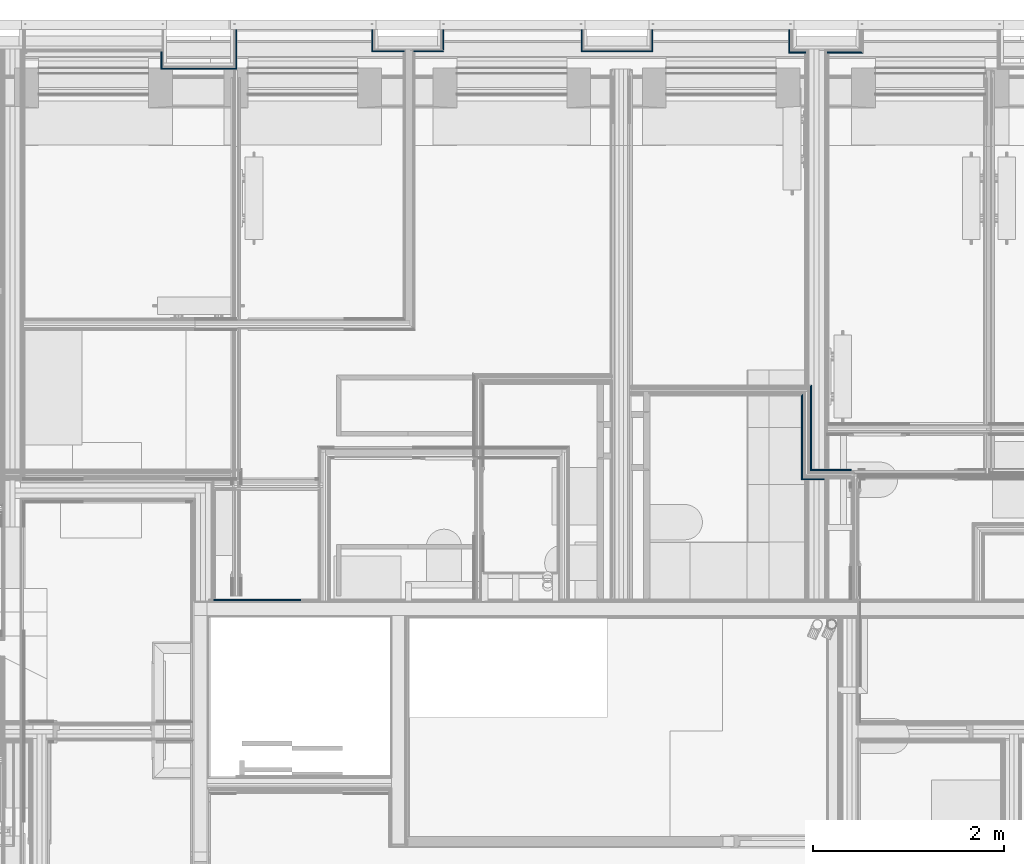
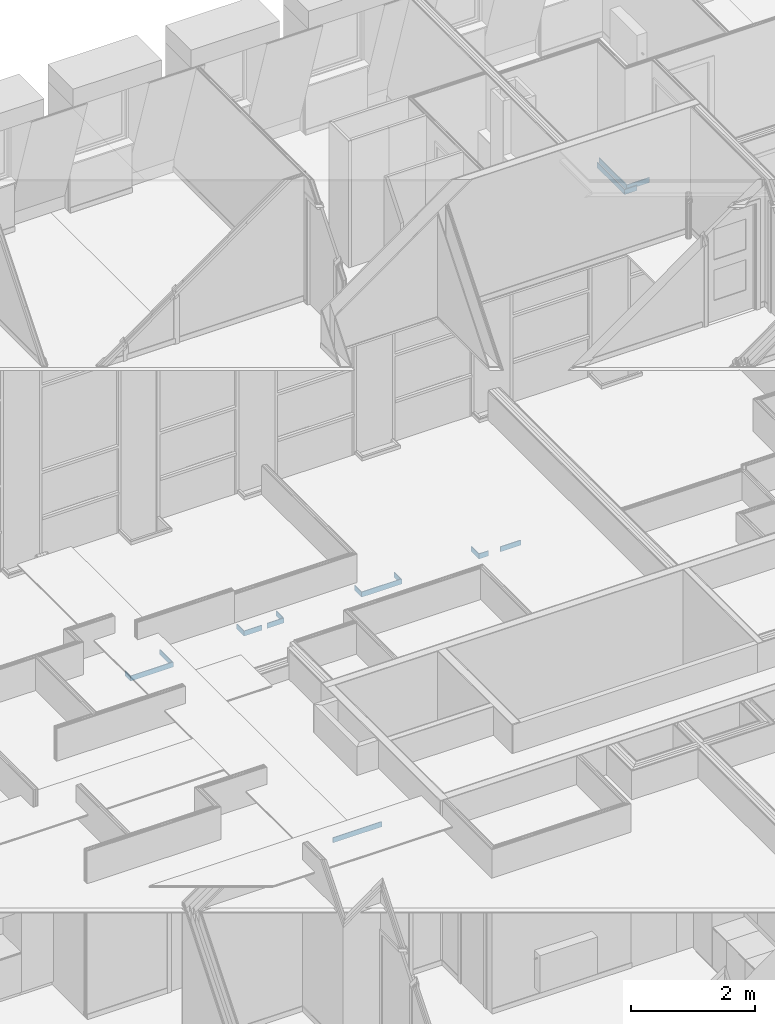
# One storey, part 60 of 169: 18 building element parts, 14 elements without a shape of their own.
"""IFC2X3 building model written with IfcOpenShell, lengths in metres."""

from ifc_helpers import new_model, entity, si_unit, converted_unit, derived_unit, money_unit, direction, frame, frame_2d, origin_with_axes, place, context, subcontext, project, spatial, polyline, rectangle, outline, extrude, material, type_object, element, aggregate, save


model = new_model("IFC2X3")

# Units and contexts
model_context = context("Model", 3, precision=1e-05, world=origin_with_axes(), true_north=direction((0.0, 1.0)))
body_context = subcontext(model_context, "Body", "Model", "MODEL_VIEW", scale=1.0)
ifc_project = project(units=[si_unit("LENGTHUNIT", "METRE"), si_unit("AREAUNIT", "SQUARE_METRE"), si_unit("VOLUMEUNIT", "CUBIC_METRE"), si_unit("ABSORBEDDOSEUNIT", "GRAY"), si_unit("AMOUNTOFSUBSTANCEUNIT", "MOLE"), si_unit("DOSEEQUIVALENTUNIT", "SIEVERT"), si_unit("ELECTRICCAPACITANCEUNIT", "FARAD"), si_unit("ELECTRICCHARGEUNIT", "COULOMB"), si_unit("ELECTRICCONDUCTANCEUNIT", "SIEMENS"), si_unit("ELECTRICCURRENTUNIT", "AMPERE"), si_unit("ELECTRICRESISTANCEUNIT", "OHM"), si_unit("ELECTRICVOLTAGEUNIT", "VOLT"), si_unit("ENERGYUNIT", "JOULE"), si_unit("FORCEUNIT", "NEWTON"), si_unit("FREQUENCYUNIT", "HERTZ"), si_unit("ILLUMINANCEUNIT", "LUX"), si_unit("INDUCTANCEUNIT", "HENRY"), si_unit("LUMINOUSFLUXUNIT", "LUMEN"), si_unit("LUMINOUSINTENSITYUNIT", "CANDELA"), si_unit("MAGNETICFLUXDENSITYUNIT", "TESLA"), si_unit("MAGNETICFLUXUNIT", "WEBER"), si_unit("MASSUNIT", "GRAM"), converted_unit("PLANEANGLEUNIT", "degree", entity("IfcReal", 0.0174532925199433), si_unit("PLANEANGLEUNIT", "RADIAN"), dimensions=[0, 0, 0, 0, 0, 0, 0]), si_unit("POWERUNIT", "WATT"), si_unit("PRESSUREUNIT", "PASCAL"), si_unit("RADIOACTIVITYUNIT", "BECQUEREL"), si_unit("SOLIDANGLEUNIT", "STERADIAN"), si_unit("THERMODYNAMICTEMPERATUREUNIT", "KELVIN"), si_unit("TIMEUNIT", "SECOND"), derived_unit("ACCELERATIONUNIT", [(si_unit("LENGTHUNIT", "METRE"), 1), (si_unit("TIMEUNIT", "SECOND"), -2)]), derived_unit("ANGULARVELOCITYUNIT", [(converted_unit("PLANEANGLEUNIT", "degree", entity("IfcReal", 0.0174532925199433), si_unit("PLANEANGLEUNIT", "RADIAN"), dimensions=[0, 0, 0, 0, 0, 0, 0]), 1), (si_unit("TIMEUNIT", "SECOND"), -1)]), derived_unit("CURVATUREUNIT", [(converted_unit("PLANEANGLEUNIT", "degree", entity("IfcReal", 0.0174532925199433), si_unit("PLANEANGLEUNIT", "RADIAN"), dimensions=[0, 0, 0, 0, 0, 0, 0]), 1), (si_unit("LENGTHUNIT", "METRE"), -1)]), derived_unit("DYNAMICVISCOSITYUNIT", [(si_unit("PRESSUREUNIT", "PASCAL"), 1), (si_unit("TIMEUNIT", "SECOND"), 1)]), derived_unit("HEATFLUXDENSITYUNIT", [(si_unit("POWERUNIT", "WATT"), 1), (si_unit("LENGTHUNIT", "METRE"), -2)]), derived_unit("HEATINGVALUEUNIT", [(si_unit("ENERGYUNIT", "JOULE"), 1), (si_unit("MASSUNIT", "GRAM"), -1)]), derived_unit("INTEGERCOUNTRATEUNIT", [(si_unit("TIMEUNIT", "SECOND"), -1)]), derived_unit("IONCONCENTRATIONUNIT", [(si_unit("MASSUNIT", "GRAM"), 1), (si_unit("VOLUMEUNIT", "CUBIC_METRE"), -1)]), derived_unit("ISOTHERMALMOISTURECAPACITYUNIT", [(si_unit("VOLUMEUNIT", "CUBIC_METRE"), 1), (si_unit("MASSUNIT", "GRAM"), -1)]), derived_unit("KINEMATICVISCOSITYUNIT", [(si_unit("AREAUNIT", "SQUARE_METRE"), 1), (si_unit("TIMEUNIT", "SECOND"), -1)]), derived_unit("LINEARFORCEUNIT", [(si_unit("FORCEUNIT", "NEWTON"), 1), (si_unit("LENGTHUNIT", "METRE"), -1)]), derived_unit("LINEARMOMENTUNIT", [(si_unit("FORCEUNIT", "NEWTON"), 1), (si_unit("LENGTHUNIT", "METRE"), -1)]), derived_unit("LINEARSTIFFNESSUNIT", [(si_unit("FORCEUNIT", "NEWTON"), 1), (si_unit("LENGTHUNIT", "METRE"), -1)]), derived_unit("LINEARVELOCITYUNIT", [(si_unit("LENGTHUNIT", "METRE"), 1), (si_unit("TIMEUNIT", "SECOND"), -1)]), derived_unit("LUMINOUSINTENSITYDISTRIBUTIONUNIT", [(si_unit("LUMINOUSINTENSITYUNIT", "CANDELA"), 1), (si_unit("LUMINOUSFLUXUNIT", "LUMEN"), -1)]), derived_unit("MASSDENSITYUNIT", [(si_unit("MASSUNIT", "GRAM"), 1), (si_unit("VOLUMEUNIT", "CUBIC_METRE"), -1)]), derived_unit("MASSFLOWRATEUNIT", [(si_unit("MASSUNIT", "GRAM"), 1), (si_unit("TIMEUNIT", "SECOND"), -1)]), derived_unit("MASSPERLENGTHUNIT", [(si_unit("MASSUNIT", "GRAM"), 1), (si_unit("LENGTHUNIT", "METRE"), -1)]), derived_unit("MODULUSOFELASTICITYUNIT", [(si_unit("FORCEUNIT", "NEWTON"), 1), (si_unit("AREAUNIT", "SQUARE_METRE"), -1)]), derived_unit("MODULUSOFLINEARSUBGRADEREACTIONUNIT", [(si_unit("FORCEUNIT", "NEWTON"), 1), (si_unit("LENGTHUNIT", "METRE"), -2)]), derived_unit("MODULUSOFROTATIONALSUBGRADEREACTIONUNIT", [(si_unit("FORCEUNIT", "NEWTON"), 1), (si_unit("LENGTHUNIT", "METRE"), 1)]), derived_unit("MODULUSOFSUBGRADEREACTIONUNIT", [(si_unit("FORCEUNIT", "NEWTON"), 1), (si_unit("VOLUMEUNIT", "CUBIC_METRE"), -1)]), derived_unit("MOISTUREDIFFUSIVITYUNIT", [(si_unit("VOLUMEUNIT", "CUBIC_METRE"), 1), (si_unit("TIMEUNIT", "SECOND"), -1)]), derived_unit("MOLECULARWEIGHTUNIT", [(si_unit("MASSUNIT", "GRAM"), 1), (si_unit("AMOUNTOFSUBSTANCEUNIT", "MOLE"), -1)]), derived_unit("PLANARFORCEUNIT", [(si_unit("FORCEUNIT", "NEWTON"), 1), (si_unit("LENGTHUNIT", "METRE"), -2)]), derived_unit("ROTATIONALFREQUENCYUNIT", [(si_unit("TIMEUNIT", "SECOND"), -1)]), derived_unit("ROTATIONALMASSUNIT", [(si_unit("MASSUNIT", "GRAM"), 1), (si_unit("LENGTHUNIT", "METRE"), 2)]), derived_unit("ROTATIONALSTIFFNESSUNIT", [(si_unit("FORCEUNIT", "NEWTON"), 1), (si_unit("LENGTHUNIT", "METRE"), 1), (converted_unit("PLANEANGLEUNIT", "degree", entity("IfcReal", 0.0174532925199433), si_unit("PLANEANGLEUNIT", "RADIAN"), dimensions=[0, 0, 0, 0, 0, 0, 0]), -1)]), derived_unit("SECTIONAREAINTEGRALUNIT", [(si_unit("LENGTHUNIT", "METRE"), 5)]), derived_unit("SECTIONMODULUSUNIT", [(si_unit("LENGTHUNIT", "METRE"), 3)]), derived_unit("SHEARMODULUSUNIT", [(si_unit("FORCEUNIT", "NEWTON"), 1), (si_unit("AREAUNIT", "SQUARE_METRE"), -1)]), derived_unit("SOUNDPOWERUNIT", [(si_unit("ENERGYUNIT", "JOULE"), 1), (si_unit("TIMEUNIT", "SECOND"), -1)]), derived_unit("SPECIFICHEATCAPACITYUNIT", [(si_unit("FORCEUNIT", "NEWTON"), 1), (si_unit("MASSUNIT", "GRAM"), -1), (si_unit("THERMODYNAMICTEMPERATUREUNIT", "KELVIN"), -1)]), derived_unit("TEMPERATUREGRADIENTUNIT", [(si_unit("THERMODYNAMICTEMPERATUREUNIT", "KELVIN"), 1), (si_unit("LENGTHUNIT", "METRE"), -1)]), derived_unit("THERMALADMITTANCEUNIT", [(si_unit("POWERUNIT", "WATT"), 1), (si_unit("AREAUNIT", "SQUARE_METRE"), -1), (si_unit("THERMODYNAMICTEMPERATUREUNIT", "KELVIN"), -1)]), derived_unit("THERMALCONDUCTANCEUNIT", [(si_unit("POWERUNIT", "WATT"), 1), (si_unit("LENGTHUNIT", "METRE"), -1), (si_unit("THERMODYNAMICTEMPERATUREUNIT", "KELVIN"), -1)]), derived_unit("THERMALEXPANSIONCOEFFICIENTUNIT", [(si_unit("THERMODYNAMICTEMPERATUREUNIT", "KELVIN"), -1)]), derived_unit("THERMALRESISTANCEUNIT", [(si_unit("AREAUNIT", "SQUARE_METRE"), 1), (si_unit("POWERUNIT", "WATT"), -1)]), derived_unit("THERMALTRANSMITTANCEUNIT", [(si_unit("POWERUNIT", "WATT"), 1), (si_unit("AREAUNIT", "SQUARE_METRE"), -1), (si_unit("THERMODYNAMICTEMPERATUREUNIT", "KELVIN"), -1)]), derived_unit("TORQUEUNIT", [(si_unit("FORCEUNIT", "NEWTON"), 1), (si_unit("LENGTHUNIT", "METRE"), 1)]), derived_unit("VAPORPERMEABILITYUNIT", [(si_unit("MASSUNIT", "GRAM"), 1), (si_unit("TIMEUNIT", "SECOND"), -1)]), derived_unit("VOLUMETRICFLOWRATEUNIT", [(si_unit("VOLUMEUNIT", "CUBIC_METRE"), 1), (si_unit("TIMEUNIT", "SECOND"), -1)]), derived_unit("WARPINGCONSTANTUNIT", [(si_unit("LENGTHUNIT", "METRE"), 6)]), derived_unit("WARPINGMOMENTUNIT", [(si_unit("FORCEUNIT", "NEWTON"), 1), (si_unit("LENGTHUNIT", "METRE"), 2)]), money_unit("GBP")], contexts=[model_context])

# Site, building, storey
site_placement = place(None, origin_with_axes())
site = spatial("IfcSite", under=ifc_project, at=site_placement, Name="Site", CompositionType="ELEMENT")
building_placement = place(site_placement, origin_with_axes())
building = spatial("IfcBuilding", under=site, at=building_placement, Name="Building01", CompositionType="ELEMENT")
storey_placement = place(building_placement, frame((0.0, 0.0, 5.15), z_axis=(0.0, 0.0, 1.0), x_axis=(1.0, 0.0, 0.0)))
storey = spatial("IfcBuildingStorey", under=building, at=storey_placement, Name="1F", CompositionType="ELEMENT", Elevation=5.15)

# Wall, building element part
wall_type_1 = type_object("IfcWallType", Name="SHE_A-Walls_Type03a_BlockworkWall_170mm", PredefinedType="NOTDEFINED")
wall_1_placement = place(storey_placement, frame((17.985, 8.805, 0.0), z_axis=(0.0, 0.0, 1.0), x_axis=(-1.0, 0.0, 0.0)))
wall_1 = element("IfcWall", 1, at=wall_1_placement, inside=storey, type_object=wall_type_1, Name="4B", ObjectType="SHE_A-Walls_Type03a_BlockworkWall_170mm")
ifc_material = material(Name="A_BSUK_Walls_Timber")
building_element_part_1_placement = place(wall_1_placement, origin_with_axes())
building_element_part_1 = element("IfcBuildingElementPart", 2, at=building_element_part_1_placement, material=ifc_material, Name="4", context=body_context, shape_type="SweptSolid", body=[
    extrude(rectangle(XDim=0.908871, YDim=0.015, at=frame_2d((8.245565, -0.0225), x_axis=(-1.0, 0.0))), frame((0.0, 0.0, 0.015), z_axis=(0.0, 0.0, 1.0), x_axis=(1.0, 0.0, 0.0)), (0.0, 0.0, 1.0), 0.1),
])
aggregate(wall_1, [building_element_part_1])

wall_type_2 = type_object("IfcWallType", Name="SHE_A-Walls_Type06f_ExternalWallInsulation_48+15mm", PredefinedType="NOTDEFINED")
wall_2_placement = place(storey_placement, frame((15.365, 14.612, 0.0), z_axis=(0.0, 0.0, 1.0), x_axis=(0.0, 1.0, 0.0)))
wall_2 = element("IfcWall", 3, at=wall_2_placement, inside=storey, type_object=wall_type_2, Name="6F", ObjectType="SHE_A-Walls_Type06f_ExternalWallInsulation_48+15mm")
building_element_part_2_placement = place(wall_2_placement, origin_with_axes())
building_element_part_2 = element("IfcBuildingElementPart", 4, at=building_element_part_2_placement, material=ifc_material, Name="4", context=body_context, shape_type="SweptSolid", body=[
    extrude(outline(polyline([(-0.06, 0.06), (-0.045, 0.045), (0.188, 0.045), (0.188, 0.06), (-0.06, 0.06)])), frame((0.0, 0.0, 0.015), z_axis=(0.0, 0.0, 1.0), x_axis=(1.0, 0.0, 0.0)), (0.0, 0.0, 1.0), 0.1),
])
aggregate(wall_2, [building_element_part_2])

# Wall, building element parts
wall_3_placement = place(storey_placement, frame((16.025, 14.612, 0.0), z_axis=(0.0, 0.0, 1.0), x_axis=(-1.0, 0.0, 0.0)))
wall_3 = element("IfcWall", 5, at=wall_3_placement, inside=storey, type_object=wall_type_2, Name="6F", ObjectType="SHE_A-Walls_Type06f_ExternalWallInsulation_48+15mm")
placement_1 = place(wall_3_placement, origin_with_axes())
building_element_part_3 = element("IfcBuildingElementPart", 6, at=placement_1, material=ifc_material, Name="6", context=body_context, shape_type="SweptSolid", body=[
    extrude(outline(polyline([(-0.06, 0.06), (-0.045, 0.045), (0.316868, 0.045), (0.316868, 0.06), (-0.06, 0.06)])), frame((0.0, 0.0, 0.015), z_axis=(0.0, 0.0, 1.0), x_axis=(1.0, 0.0, 0.0)), (0.0, 0.0, 1.0), 0.1),
])
building_element_part_4 = element("IfcBuildingElementPart", 7, at=placement_1, material=ifc_material, Name="7", context=body_context, shape_type="SweptSolid", body=[
    extrude(outline(polyline([(0.72, 0.06), (0.541868, 0.06), (0.541868, 0.045), (0.705, 0.045), (0.72, 0.06)])), frame((0.0, 0.0, 0.015), z_axis=(0.0, 0.0, 1.0), x_axis=(1.0, 0.0, 0.0)), (0.0, 0.0, 1.0), 0.1),
])
aggregate(wall_3, [building_element_part_3, building_element_part_4])

# Wall, building element part
wall_type_3 = type_object("IfcWallType", Name="SHE_A-Walls_Type06d_ExternalWallInsulation_48mm", PredefinedType="NOTDEFINED")
wall_4_placement = place(storey_placement, frame((13.817, 14.8, 0.0), z_axis=(0.0, 0.0, 1.0), x_axis=(0.0, -1.0, 0.0)))
wall_4 = element("IfcWall", 8, at=wall_4_placement, inside=storey, type_object=wall_type_3, Name="6D", ObjectType="SHE_A-Walls_Type06d_ExternalWallInsulation_48mm")
building_element_part_5_placement = place(wall_4_placement, origin_with_axes())
building_element_part_5 = element("IfcBuildingElementPart", 9, at=building_element_part_5_placement, material=ifc_material, Name="3", context=body_context, shape_type="SweptSolid", body=[
    extrude(outline(polyline([(0.233, 0.063), (0.0, 0.063), (0.0, 0.048), (0.218, 0.048), (0.233, 0.063)])), frame((0.0, 0.0, 0.015), z_axis=(0.0, 0.0, 1.0), x_axis=(1.0, 0.0, 0.0)), (0.0, 0.0, 1.0), 0.1),
])
aggregate(wall_4, [building_element_part_5])

wall_5_placement = place(storey_placement, frame((13.853, 14.63, 0.0), z_axis=(0.0, 0.0, 1.0), x_axis=(-1.0, 0.0, 0.0)))
wall_5 = element("IfcWall", 10, at=wall_5_placement, inside=storey, type_object=wall_type_3, Name="6D", ObjectType="SHE_A-Walls_Type06d_ExternalWallInsulation_48mm")
building_element_part_6_placement = place(wall_5_placement, origin_with_axes())
building_element_part_6 = element("IfcBuildingElementPart", 11, at=building_element_part_6_placement, material=ifc_material, Name="3", context=body_context, shape_type="SweptSolid", body=[
    extrude(outline(polyline([(0.723, 0.063), (-0.027, 0.063), (-0.012, 0.048), (0.708, 0.048), (0.723, 0.063)])), frame((0.0, 0.0, 0.015), z_axis=(0.0, 0.0, 1.0), x_axis=(1.0, 0.0, 0.0)), (0.0, 0.0, 1.0), 0.1),
])
aggregate(wall_5, [building_element_part_6])

wall_6_placement = place(storey_placement, frame((13.193, 14.63, 0.0), z_axis=(0.0, 0.0, 1.0), x_axis=(0.0, 1.0, 0.0)))
wall_6 = element("IfcWall", 12, at=wall_6_placement, inside=storey, type_object=wall_type_3, Name="6D", ObjectType="SHE_A-Walls_Type06d_ExternalWallInsulation_48mm")
building_element_part_7_placement = place(wall_6_placement, origin_with_axes())
building_element_part_7 = element("IfcBuildingElementPart", 13, at=building_element_part_7_placement, material=ifc_material, Name="3", context=body_context, shape_type="SweptSolid", body=[
    extrude(outline(polyline([(0.17, 0.063), (-0.063, 0.063), (-0.048, 0.048), (0.17, 0.048), (0.17, 0.063)])), frame((0.0, 0.0, 0.015), z_axis=(0.0, 0.0, 1.0), x_axis=(1.0, 0.0, 0.0)), (0.0, 0.0, 1.0), 0.1),
])
aggregate(wall_6, [building_element_part_7])

wall_7_placement = place(storey_placement, frame((11.627, 14.8, 0.0), z_axis=(0.0, 0.0, 1.0), x_axis=(0.0, -1.0, 0.0)))
wall_7 = element("IfcWall", 14, at=wall_7_placement, inside=storey, type_object=wall_type_3, Name="6D", ObjectType="SHE_A-Walls_Type06d_ExternalWallInsulation_48mm")
building_element_part_8_placement = place(wall_7_placement, origin_with_axes())
building_element_part_8 = element("IfcBuildingElementPart", 15, at=building_element_part_8_placement, material=ifc_material, Name="3", context=body_context, shape_type="SweptSolid", body=[
    extrude(outline(polyline([(0.218, 0.063), (0.0, 0.063), (0.0, 0.048), (0.203, 0.048), (0.218, 0.063)])), frame((0.0, 0.0, 0.015), z_axis=(0.0, 0.0, 1.0), x_axis=(1.0, 0.0, 0.0)), (0.0, 0.0, 1.0), 0.1),
])
aggregate(wall_7, [building_element_part_8])

# Wall, building element parts
wall_8_placement = place(storey_placement, frame((11.663, 14.63, 0.0), z_axis=(0.0, 0.0, 1.0), x_axis=(-1.0, 0.0, 0.0)))
wall_8 = element("IfcWall", 16, at=wall_8_placement, inside=storey, type_object=wall_type_3, Name="6D", ObjectType="SHE_A-Walls_Type06d_ExternalWallInsulation_48mm")
placement_2 = place(wall_8_placement, origin_with_axes())
building_element_part_9 = element("IfcBuildingElementPart", 17, at=placement_2, material=ifc_material, Name="4", context=body_context, shape_type="SweptSolid", body=[
    extrude(outline(polyline([(0.288, 0.063), (-0.027, 0.063), (-0.012, 0.048), (0.288, 0.048), (0.288, 0.063)])), frame((0.0, 0.0, 0.015), z_axis=(0.0, 0.0, 1.0), x_axis=(1.0, 0.0, 0.0)), (0.0, 0.0, 1.0), 0.1),
])
building_element_part_10 = element("IfcBuildingElementPart", 18, at=placement_2, material=ifc_material, Name="5", context=body_context, shape_type="SweptSolid", body=[
    extrude(outline(polyline([(0.723, 0.063), (0.383, 0.063), (0.383, 0.048), (0.708, 0.048), (0.723, 0.063)])), frame((0.0, 0.0, 0.015), z_axis=(0.0, 0.0, 1.0), x_axis=(1.0, 0.0, 0.0)), (0.0, 0.0, 1.0), 0.1),
])
aggregate(wall_8, [building_element_part_9, building_element_part_10])

# Wall, building element part
wall_9_placement = place(storey_placement, frame((11.003, 14.8, 0.0), z_axis=(0.0, 0.0, 1.0), x_axis=(0.0, -1.0, 0.0)))
wall_9 = element("IfcWall", 19, at=wall_9_placement, inside=storey, type_object=wall_type_3, Name="6D", ObjectType="SHE_A-Walls_Type06d_ExternalWallInsulation_48mm")
building_element_part_11_placement = place(wall_9_placement, origin_with_axes())
building_element_part_11 = element("IfcBuildingElementPart", 20, at=building_element_part_11_placement, material=ifc_material, Name="1", context=body_context, shape_type="SweptSolid", body=[
    extrude(outline(polyline([(0.218, -0.048), (0.0, -0.048), (0.0, -0.063), (0.233, -0.063), (0.218, -0.048)])), frame((0.0, 0.0, 0.015), z_axis=(0.0, 0.0, 1.0), x_axis=(1.0, 0.0, 0.0)), (0.0, 0.0, 1.0), 0.1),
])
aggregate(wall_9, [building_element_part_11])

wall_10_placement = place(storey_placement, frame((9.46, 14.8, 0.0), z_axis=(0.0, 0.0, 1.0), x_axis=(0.0, -1.0, 0.0)))
wall_10 = element("IfcWall", 21, at=wall_10_placement, inside=storey, type_object=wall_type_3, Name="6D", ObjectType="SHE_A-Walls_Type06d_ExternalWallInsulation_48mm")
building_element_part_12_placement = place(wall_10_placement, origin_with_axes())
building_element_part_12 = element("IfcBuildingElementPart", 22, at=building_element_part_12_placement, material=ifc_material, Name="3", context=body_context, shape_type="SweptSolid", body=[
    extrude(outline(polyline([(0.413, 0.063), (0.0, 0.063), (0.0, 0.048), (0.398, 0.048), (0.413, 0.063)])), frame((0.0, 0.0, 0.015), z_axis=(0.0, 0.0, 1.0), x_axis=(1.0, 0.0, 0.0)), (0.0, 0.0, 1.0), 0.1),
])
aggregate(wall_10, [building_element_part_12])

wall_11_placement = place(storey_placement, frame((9.496, 14.45, 0.0), z_axis=(0.0, 0.0, 1.0), x_axis=(-1.0, 0.0, 0.0)))
wall_11 = element("IfcWall", 23, at=wall_11_placement, inside=storey, type_object=wall_type_3, Name="6D", ObjectType="SHE_A-Walls_Type06d_ExternalWallInsulation_48mm")
building_element_part_13_placement = place(wall_11_placement, origin_with_axes())
building_element_part_13 = element("IfcBuildingElementPart", 24, at=building_element_part_13_placement, material=ifc_material, Name="3", context=body_context, shape_type="SweptSolid", body=[
    extrude(outline(polyline([(0.769, 0.063), (-0.027, 0.063), (-0.012, 0.048), (0.754, 0.048), (0.769, 0.063)])), frame((0.0, 0.0, 0.015), z_axis=(0.0, 0.0, 1.0), x_axis=(1.0, 0.0, 0.0)), (0.0, 0.0, 1.0), 0.1),
])
aggregate(wall_11, [building_element_part_13])

wall_12_placement = place(storey_placement, frame((8.79, 14.45, 0.0), z_axis=(0.0, 0.0, 1.0), x_axis=(0.0, 1.0, 0.0)))
wall_12 = element("IfcWall", 25, at=wall_12_placement, inside=storey, type_object=wall_type_3, Name="6D", ObjectType="SHE_A-Walls_Type06d_ExternalWallInsulation_48mm")
building_element_part_14_placement = place(wall_12_placement, origin_with_axes())
building_element_part_14 = element("IfcBuildingElementPart", 26, at=building_element_part_14_placement, material=ifc_material, Name="3", context=body_context, shape_type="SweptSolid", body=[
    extrude(outline(polyline([(0.117, 0.063), (-0.063, 0.063), (-0.048, 0.048), (0.117, 0.048), (0.117, 0.063)])), frame((0.0, 0.0, 0.015), z_axis=(0.0, 0.0, 1.0), x_axis=(1.0, 0.0, 0.0)), (0.0, 0.0, 1.0), 0.1),
])
aggregate(wall_12, [building_element_part_14])

# Wall, building element parts
wall_type_4 = type_object("IfcWallType", Name="SHE_A-Walls_Type05b_Partition_80mm", PredefinedType="NOTDEFINED")
wall_13_placement = place(storey_placement, frame((15.476998, 10.126939, 9.83), z_axis=(0.0, 0.0, 1.0), x_axis=(1.0, 0.0, 0.0)))
wall_13 = element("IfcWall", 27, at=wall_13_placement, inside=storey, type_object=wall_type_4, Name="5B", ObjectType="SHE_A-Walls_Type05b_Partition_80mm")
placement_3 = place(wall_13_placement, origin_with_axes())
building_element_part_15 = element("IfcBuildingElementPart", 28, at=placement_3, material=ifc_material, Name="1", context=body_context, shape_type="SweptSolid", body=[
    extrude(outline(polyline([(-0.027, -0.027), (-0.042, -0.042), (0.19638, -0.042), (0.19638, -0.027), (-0.027, -0.027)])), frame((0.0, 0.0, 0.015), z_axis=(0.0, 0.0, 1.0), x_axis=(1.0, 0.0, 0.0)), (0.0, 0.0, 1.0), 0.1),
])
building_element_part_16 = element("IfcBuildingElementPart", 29, at=placement_3, material=ifc_material, Name="7", context=body_context, shape_type="SweptSolid", body=[
    extrude(outline(polyline([(0.481442, 0.068), (0.068, 0.068), (0.053, 0.053), (0.481442, 0.053), (0.481442, 0.068)])), frame((0.0, 0.0, 0.015), z_axis=(0.0, 0.0, 1.0), x_axis=(1.0, 0.0, 0.0)), (0.0, 0.0, 1.0), 0.1),
])
aggregate(wall_13, [building_element_part_15, building_element_part_16])

wall_14_placement = place(storey_placement, frame((15.476998, 11.011789, 9.83), z_axis=(0.0, 0.0, 1.0), x_axis=(0.0, -1.0, 0.0)))
wall_14 = element("IfcWall", 30, at=wall_14_placement, inside=storey, type_object=wall_type_4, Name="5B", ObjectType="SHE_A-Walls_Type05b_Partition_80mm")
placement_4 = place(wall_14_placement, origin_with_axes())
building_element_part_17 = element("IfcBuildingElementPart", 31, at=placement_4, material=ifc_material, Name="1", context=body_context, shape_type="SweptSolid", body=[
    extrude(outline(polyline([(0.911849, -0.027), (0.028, -0.027), (0.043, -0.042), (0.926849, -0.042), (0.911849, -0.027)])), frame((0.0, 0.0, 0.015), z_axis=(0.0, 0.0, 1.0), x_axis=(1.0, 0.0, 0.0)), (0.0, 0.0, 1.0), 0.1),
])
building_element_part_18 = element("IfcBuildingElementPart", 32, at=placement_4, material=ifc_material, Name="7", context=body_context, shape_type="SweptSolid", body=[
    extrude(outline(polyline([(0.816849, 0.068), (-0.067, 0.068), (-0.052, 0.053), (0.831849, 0.053), (0.816849, 0.068)])), frame((0.0, 0.0, 0.015), z_axis=(0.0, 0.0, 1.0), x_axis=(1.0, 0.0, 0.0)), (0.0, 0.0, 1.0), 0.1),
])
aggregate(wall_14, [building_element_part_17, building_element_part_18])

save(model, "model.ifc")
